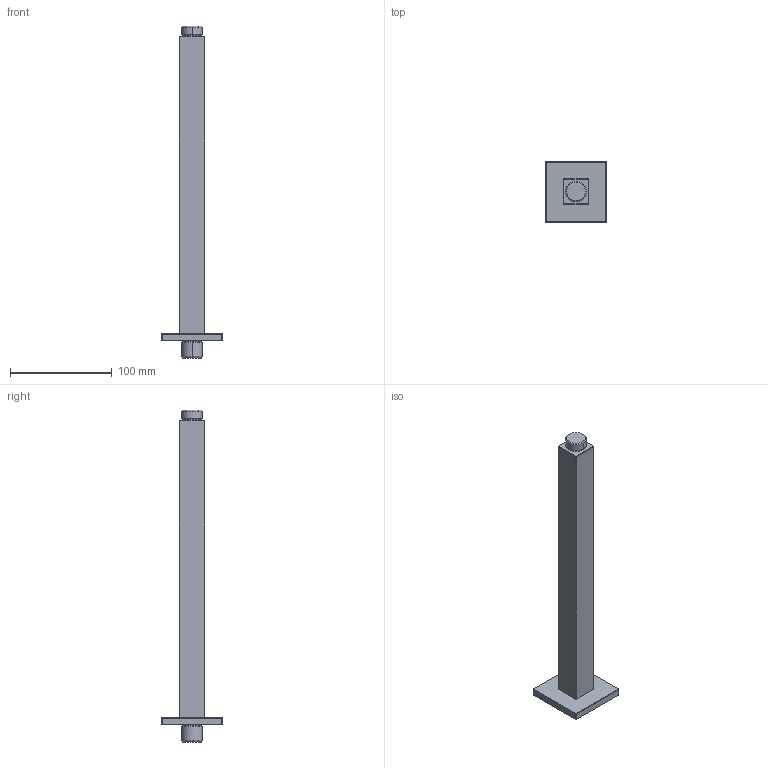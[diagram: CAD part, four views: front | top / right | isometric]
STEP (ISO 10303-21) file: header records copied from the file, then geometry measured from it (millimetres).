
FILE_DESCRIPTION((''),'2;1');
FILE_NAME('90960_SW0001','2021-07-06T14:33:29',('carloff'),(''),'CREO PARAMETRIC BY PTC INC, 2018100','CREO PARAMETRIC BY PTC INC, 2018100','');
FILE_SCHEMA(('CONFIG_CONTROL_DESIGN'));
Length unit declared in the file: millimetre
Products named in the file (1): 90960_SW0001
Bounding box: 60 x 60 x 327 mm (x, y, z)
Volume: 216911.4 mm3; surface area: 39664.9 mm2
Topology: 1 solids, 1 shells, 53 faces, 108 edges, 60 vertices
Faces by surface type: cylinder 24, plane 13, sphere 8, cone 8
Entity records: 1404 total; most frequent: DIRECTION 266, CARTESIAN_POINT 221, ORIENTED_EDGE 216, EDGE_CURVE 108, AXIS2_PLACEMENT_3D 105, VERTEX_POINT 60, VECTOR 56, LINE 56
